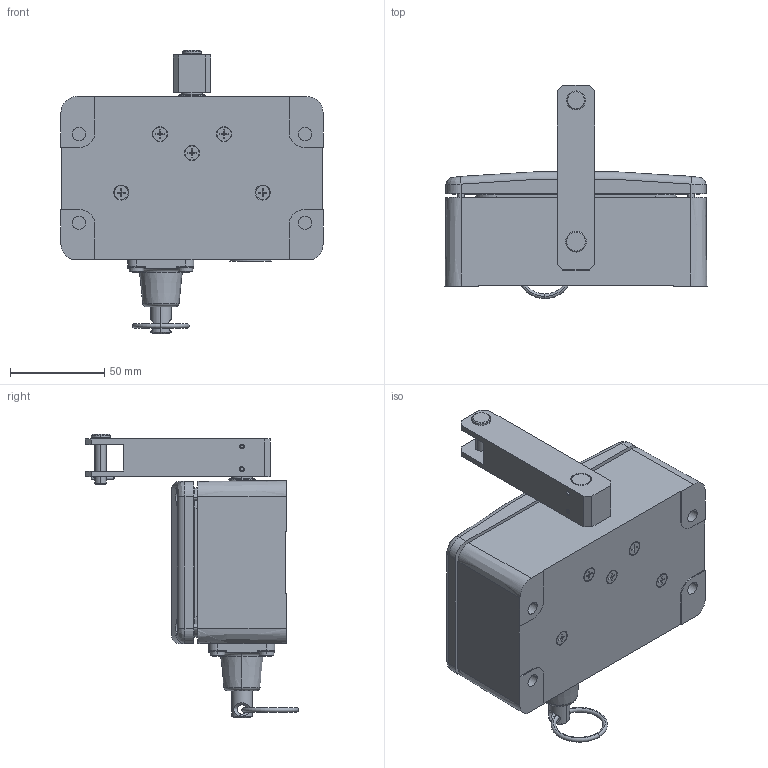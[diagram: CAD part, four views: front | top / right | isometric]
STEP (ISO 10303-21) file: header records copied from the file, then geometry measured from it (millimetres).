
FILE_DESCRIPTION((''),'2;1');
FILE_NAME('SI1-AK-R-RAST_SW0001','2014-05-08T',('Yvonne.Storm'),(''),'PRO/ENGINEER BY PARAMETRIC TECHNOLOGY CORPORATION, 2012360','PRO/ENGINEER BY PARAMETRIC TECHNOLOGY CORPORATION, 2012360','');
FILE_SCHEMA(('AUTOMOTIVE_DESIGN { 1 0 10303 214 1 1 1 1 }'));
Products named in the file (1): SI1-AK-R-RAST_SW0001
Bounding box: 139 x 113 x 150.6 mm (x, y, z)
Volume: 384073.6 mm3; surface area: 121397.9 mm2
Topology: 10 solids, 12 shells, 1232 faces, 2806 edges, 1624 vertices
Faces by surface type: plane 608, cylinder 323, cone 139, torus 92, bspline 47, sphere 23
Entity records: 57582 total; most frequent: CARTESIAN_POINT 12460, DIRECTION 5802, ORIENTED_EDGE 5544, PRESENTATION_STYLE_ASSIGNMENT 3728, STYLED_ITEM 2787, CURVE_STYLE 2772, EDGE_CURVE 2772, AXIS2_PLACEMENT_3D 2189
